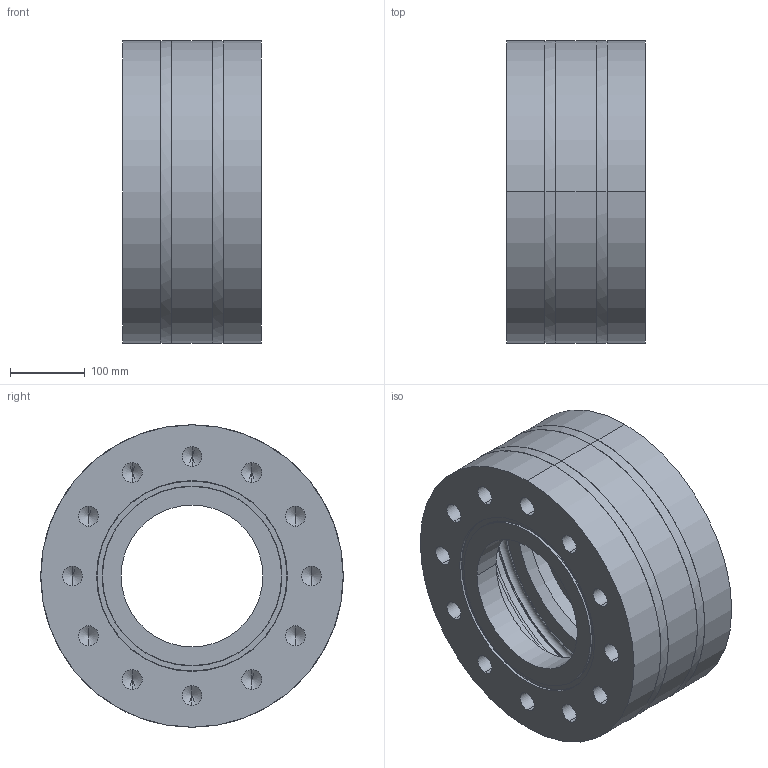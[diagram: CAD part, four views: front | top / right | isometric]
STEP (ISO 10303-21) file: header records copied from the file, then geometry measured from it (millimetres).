
FILE_DESCRIPTION (( 'STEP AP214' ), '1' );
FILE_NAME ('RVZ3139xD23A5A05500_DN200_DIN-RR-Nut_PS40.STEP', '2009-11-10T10:07:54', ( 'Eckhard Grams' ), ( 'AWP Kälte Klima Armaturen GmbH' ), 'SwSTEP 2.0', 'SolidWorks 2002296', '' );
FILE_SCHEMA (( 'AUTOMOTIVE_DESIGN' ));
Length unit declared in the file: millimetre
Products named in the file (7): RVZ3139xD23A5A05500_DN200_DIN-RR-Nut_PS40; Geh,kpl 31391E23-5030554_DIN-FL-RR-Nut_PS40_Standard; bead Geh,kpl 31391E23-2_Standard; bead Geh,kpl 31391E23-1_Standard; Austr-FL 31391E23-5436004_DN200_DIN-FL_PS40_A-FL in Geh,kpl 31391E23-5030551 R-Nut; Geh 31391E23-5034004_DN200_PS40_Geh in Geh,kpl 31391E23-5030001; Eintr-FL 31391E23-5433004_DN200_DIN-FL_PS40_E-FL in Geh,kpl 31391E23-5030551 RR-Nut
Assembly tree (6 placements, depth 3):
  RVZ3139xD23A5A05500_DN200_DIN-RR-Nut_PS40
    Geh,kpl 31391E23-5030554_DIN-FL-RR-Nut_PS40_Standard
      bead Geh,kpl 31391E23-1_Standard
      bead Geh,kpl 31391E23-2_Standard
      Geh 31391E23-5034004_DN200_PS40_Geh in Geh,kpl 31391E23-5030001
      Eintr-FL 31391E23-5433004_DN200_DIN-FL_PS40_E-FL in Geh,kpl 31391E23-5030551 RR-Nut
      Austr-FL 31391E23-5436004_DN200_DIN-FL_PS40_A-FL in Geh,kpl 31391E23-5030551 R-Nut
Bounding box: 185 x 405 x 405 mm (x, y, z)
Volume: 9192519.4 mm3; surface area: 1014016.5 mm2
Topology: 5 solids, 5 shells, 300 faces, 739 edges, 432 vertices
Faces by surface type: cylinder 104, cone 98, plane 65, torus 25, bspline 8
Entity records: 12595 total; most frequent: CARTESIAN_POINT 5534, DIRECTION 1472, ORIENTED_EDGE 1382, EDGE_CURVE 691, AXIS2_PLACEMENT_3D 605, VERTEX_POINT 432, EDGE_LOOP 341, CIRCLE 303
